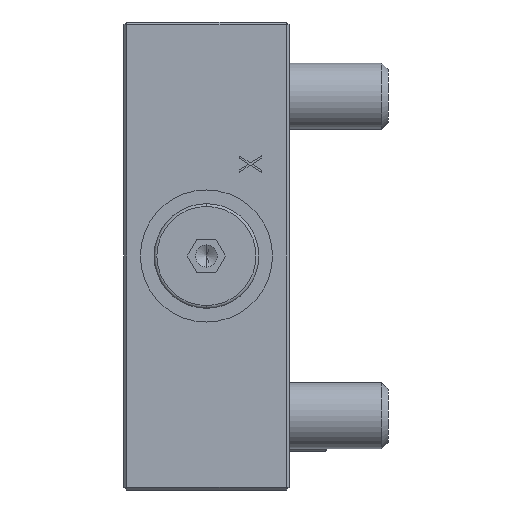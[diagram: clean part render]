
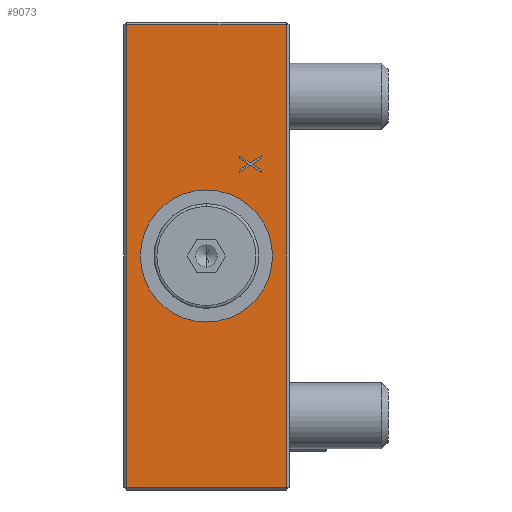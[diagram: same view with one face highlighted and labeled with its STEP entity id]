
A CAD part, left-side view. The second image highlights one B-rep face of the part: STEP entity #9073.
In plain terms, the highlighted planar face has unit normal (-1, 0, 0).
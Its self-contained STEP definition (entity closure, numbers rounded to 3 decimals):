
#234 = VERTEX_POINT ( 'NONE', #9271 ) ;
#242 = ORIENTED_EDGE ( 'NONE', *, *, #1746, .T. ) ;
#330 = DIRECTION ( 'NONE',  ( 0., 1., 0. ) ) ;
#387 = DIRECTION ( 'NONE',  ( -1., 0., 0. ) ) ;
#494 = CARTESIAN_POINT ( 'NONE',  ( 0., -7.636, 16.692 ) ) ;
#545 = CARTESIAN_POINT ( 'NONE',  ( 0., 0., -12. ) ) ;
#643 = DIRECTION ( 'NONE',  ( 0., -0.842, -0.539 ) ) ;
#997 = EDGE_CURVE ( 'NONE', #12543, #10412, #11096, .T. ) ;
#1161 = DIRECTION ( 'NONE',  ( -1., 0., 0. ) ) ;
#1243 = VERTEX_POINT ( 'NONE', #7927 ) ;
#1526 = CARTESIAN_POINT ( 'NONE',  ( 0., -15., -42. ) ) ;
#1552 = VERTEX_POINT ( 'NONE', #14322 ) ;
#1574 = CARTESIAN_POINT ( 'NONE',  ( 0., -10., 15.179 ) ) ;
#1746 = EDGE_CURVE ( 'NONE', #13929, #6340, #3422, .T. ) ;
#1770 = EDGE_CURVE ( 'NONE', #6340, #9050, #3118, .T. ) ;
#1774 = EDGE_CURVE ( 'NONE', #9050, #1552, #3182, .T. ) ;
#1796 = EDGE_CURVE ( 'NONE', #1552, #13929, #3088, .T. ) ;
#1799 = EDGE_CURVE ( 'NONE', #10412, #12543, #3134, .T. ) ;
#1815 = EDGE_CURVE ( 'NONE', #234, #4545, #3057, .T. ) ;
#1817 = EDGE_CURVE ( 'NONE', #4545, #13897, #3020, .T. ) ;
#1829 = CARTESIAN_POINT ( 'NONE',  ( 0., -10., 17.791 ) ) ;
#1858 = EDGE_CURVE ( 'NONE', #13897, #7285, #2712, .T. ) ;
#1860 = EDGE_CURVE ( 'NONE', #7285, #3218, #2756, .T. ) ;
#1878 = EDGE_CURVE ( 'NONE', #3218, #6812, #2721, .T. ) ;
#1879 = EDGE_CURVE ( 'NONE', #6812, #10116, #2669, .T. ) ;
#1903 = EDGE_CURVE ( 'NONE', #10116, #10938, #2650, .T. ) ;
#1907 = EDGE_CURVE ( 'NONE', #10938, #1243, #2623, .T. ) ;
#1927 = EDGE_CURVE ( 'NONE', #1243, #12857, #2329, .T. ) ;
#1930 = EDGE_CURVE ( 'NONE', #12857, #5638, #2311, .T. ) ;
#1941 = ORIENTED_EDGE ( 'NONE', *, *, #997, .F. ) ;
#1958 = EDGE_CURVE ( 'NONE', #5638, #9239, #2253, .T. ) ;
#1961 = EDGE_CURVE ( 'NONE', #9239, #234, #2290, .T. ) ;
#2193 = VECTOR ( 'NONE', #9882, 1000. ) ;
#2219 = VECTOR ( 'NONE', #643, 1000. ) ;
#2253 = LINE ( 'NONE', #9837, #2219 ) ;
#2267 = VECTOR ( 'NONE', #3000, 1000. ) ;
#2290 = LINE ( 'NONE', #8768, #2193 ) ;
#2311 = LINE ( 'NONE', #1829, #2267 ) ;
#2329 = LINE ( 'NONE', #7602, #2342 ) ;
#2342 = VECTOR ( 'NONE', #14183, 1000. ) ;
#2346 = ORIENTED_EDGE ( 'NONE', *, *, #1815, .T. ) ;
#2518 = VECTOR ( 'NONE', #7556, 1000. ) ;
#2564 = VECTOR ( 'NONE', #14083, 1000. ) ;
#2591 = VECTOR ( 'NONE', #10795, 1000. ) ;
#2623 = LINE ( 'NONE', #13013, #2518 ) ;
#2635 = VECTOR ( 'NONE', #7470, 1000. ) ;
#2650 = LINE ( 'NONE', #8627, #2564 ) ;
#2667 = VECTOR ( 'NONE', #7510, 1000. ) ;
#2669 = LINE ( 'NONE', #9732, #2591 ) ;
#2684 = VECTOR ( 'NONE', #10745, 1000. ) ;
#2696 = DIRECTION ( 'NONE',  ( 0., 0., -1. ) ) ;
#2712 = LINE ( 'NONE', #2845, #2684 ) ;
#2718 = FACE_BOUND ( 'NONE', #4366, .T. ) ;
#2721 = LINE ( 'NONE', #494, #2635 ) ;
#2740 = PLANE ( 'NONE',  #10552 ) ;
#2756 = LINE ( 'NONE', #6406, #2667 ) ;
#2787 = DIRECTION ( 'NONE',  ( -1., 0., 0. ) ) ;
#2845 = CARTESIAN_POINT ( 'NONE',  ( 0., -6., 15.231 ) ) ;
#2954 = VECTOR ( 'NONE', #11783, 1000. ) ;
#2987 = VECTOR ( 'NONE', #13951, 1000. ) ;
#3000 = DIRECTION ( 'NONE',  ( 0., 0.842, -0.539 ) ) ;
#3013 = ORIENTED_EDGE ( 'NONE', *, *, #1930, .T. ) ;
#3020 = LINE ( 'NONE', #9592, #2954 ) ;
#3057 = LINE ( 'NONE', #1574, #2987 ) ;
#3071 = VECTOR ( 'NONE', #2696, 1000. ) ;
#3088 = LINE ( 'NONE', #1526, #3434 ) ;
#3104 = VECTOR ( 'NONE', #330, 1000. ) ;
#3118 = LINE ( 'NONE', #5033, #3104 ) ;
#3134 = CIRCLE ( 'NONE', #11275, 12. ) ;
#3177 = CARTESIAN_POINT ( 'NONE',  ( 0., -7.96, 16.486 ) ) ;
#3182 = LINE ( 'NONE', #8433, #3071 ) ;
#3218 = VERTEX_POINT ( 'NONE', #11855 ) ;
#3417 = VECTOR ( 'NONE', #8289, 1000. ) ;
#3422 = LINE ( 'NONE', #9356, #3417 ) ;
#3434 = VECTOR ( 'NONE', #10607, 1000. ) ;
#3677 = AXIS2_PLACEMENT_3D ( 'NONE', #8079, #1161, #9197 ) ;
#3940 = ORIENTED_EDGE ( 'NONE', *, *, #1858, .T. ) ;
#4010 = ORIENTED_EDGE ( 'NONE', *, *, #1878, .T. ) ;
#4300 = CARTESIAN_POINT ( 'NONE',  ( 0., -6., 17.74 ) ) ;
#4366 = EDGE_LOOP ( 'NONE', ( #2346, #10834, #3940, #5872, #4010, #11615, #5446, #6866, #11939, #3013, #9769, #12941 ) ) ;
#4545 = VERTEX_POINT ( 'NONE', #3177 ) ;
#4744 = EDGE_LOOP ( 'NONE', ( #6420, #1941 ) ) ;
#5033 = CARTESIAN_POINT ( 'NONE',  ( 0., 15., 42. ) ) ;
#5446 = ORIENTED_EDGE ( 'NONE', *, *, #1903, .T. ) ;
#5638 = VERTEX_POINT ( 'NONE', #11212 ) ;
#5861 = CARTESIAN_POINT ( 'NONE',  ( 0., -10., 17.791 ) ) ;
#5872 = ORIENTED_EDGE ( 'NONE', *, *, #1860, .T. ) ;
#5888 = FACE_BOUND ( 'NONE', #4744, .T. ) ;
#6125 = ORIENTED_EDGE ( 'NONE', *, *, #1796, .T. ) ;
#6198 = CARTESIAN_POINT ( 'NONE',  ( 0., 14.5, 42. ) ) ;
#6340 = VERTEX_POINT ( 'NONE', #13616 ) ;
#6406 = CARTESIAN_POINT ( 'NONE',  ( 0., -6., 15.645 ) ) ;
#6420 = ORIENTED_EDGE ( 'NONE', *, *, #1799, .F. ) ;
#6812 = VERTEX_POINT ( 'NONE', #4300 ) ;
#6866 = ORIENTED_EDGE ( 'NONE', *, *, #1907, .T. ) ;
#7285 = VERTEX_POINT ( 'NONE', #8503 ) ;
#7380 = CARTESIAN_POINT ( 'NONE',  ( 0., 0., 0. ) ) ;
#7470 = DIRECTION ( 'NONE',  ( 0., 0.842, 0.539 ) ) ;
#7510 = DIRECTION ( 'NONE',  ( 0., -0.842, 0.539 ) ) ;
#7556 = DIRECTION ( 'NONE',  ( 0., -0.842, 0.539 ) ) ;
#7602 = CARTESIAN_POINT ( 'NONE',  ( 0., -10., 18.205 ) ) ;
#7927 = CARTESIAN_POINT ( 'NONE',  ( 0., -10., 18.205 ) ) ;
#8079 = CARTESIAN_POINT ( 'NONE',  ( 0., 0., 0. ) ) ;
#8289 = DIRECTION ( 'NONE',  ( 0., 0., 1. ) ) ;
#8433 = CARTESIAN_POINT ( 'NONE',  ( 0., 14.5, -42.5 ) ) ;
#8483 = DIRECTION ( 'NONE',  ( 0., 0., 1. ) ) ;
#8503 = CARTESIAN_POINT ( 'NONE',  ( 0., -6., 15.645 ) ) ;
#8627 = CARTESIAN_POINT ( 'NONE',  ( 0., -6., 18.154 ) ) ;
#8768 = CARTESIAN_POINT ( 'NONE',  ( 0., -10., 15.594 ) ) ;
#9050 = VERTEX_POINT ( 'NONE', #6198 ) ;
#9073 = ADVANCED_FACE ( 'NONE', ( #11380, #5888, #2718 ), #2740, .T. ) ;
#9197 = DIRECTION ( 'NONE',  ( 0., 0., 1. ) ) ;
#9239 = VERTEX_POINT ( 'NONE', #12056 ) ;
#9271 = CARTESIAN_POINT ( 'NONE',  ( 0., -10., 15.179 ) ) ;
#9356 = CARTESIAN_POINT ( 'NONE',  ( 0., -14.5, 42.5 ) ) ;
#9592 = CARTESIAN_POINT ( 'NONE',  ( 0., -7.96, 16.486 ) ) ;
#9627 = CARTESIAN_POINT ( 'NONE',  ( 0., 15., -42.5 ) ) ;
#9732 = CARTESIAN_POINT ( 'NONE',  ( 0., -6., 17.74 ) ) ;
#9769 = ORIENTED_EDGE ( 'NONE', *, *, #1958, .T. ) ;
#9793 = ORIENTED_EDGE ( 'NONE', *, *, #1774, .T. ) ;
#9837 = CARTESIAN_POINT ( 'NONE',  ( 0., -8.284, 16.692 ) ) ;
#9882 = DIRECTION ( 'NONE',  ( 0., 0., -1. ) ) ;
#10116 = VERTEX_POINT ( 'NONE', #12162 ) ;
#10412 = VERTEX_POINT ( 'NONE', #10714 ) ;
#10552 = AXIS2_PLACEMENT_3D ( 'NONE', #9627, #2787, #10698 ) ;
#10607 = DIRECTION ( 'NONE',  ( 0., -1., 0. ) ) ;
#10698 = DIRECTION ( 'NONE',  ( 0., 0., 1. ) ) ;
#10702 = CARTESIAN_POINT ( 'NONE',  ( 0., -7.96, 16.9 ) ) ;
#10714 = CARTESIAN_POINT ( 'NONE',  ( 0., 0., 12. ) ) ;
#10745 = DIRECTION ( 'NONE',  ( 0., 0., 1. ) ) ;
#10795 = DIRECTION ( 'NONE',  ( 0., 0., 1. ) ) ;
#10834 = ORIENTED_EDGE ( 'NONE', *, *, #1817, .T. ) ;
#10938 = VERTEX_POINT ( 'NONE', #10702 ) ;
#11096 = CIRCLE ( 'NONE', #3677, 12. ) ;
#11156 = CARTESIAN_POINT ( 'NONE',  ( 0., -6., 15.231 ) ) ;
#11212 = CARTESIAN_POINT ( 'NONE',  ( 0., -8.284, 16.692 ) ) ;
#11275 = AXIS2_PLACEMENT_3D ( 'NONE', #7380, #387, #8483 ) ;
#11380 = FACE_OUTER_BOUND ( 'NONE', #13795, .T. ) ;
#11586 = ORIENTED_EDGE ( 'NONE', *, *, #1770, .T. ) ;
#11615 = ORIENTED_EDGE ( 'NONE', *, *, #1879, .T. ) ;
#11783 = DIRECTION ( 'NONE',  ( 0., 0.842, -0.539 ) ) ;
#11855 = CARTESIAN_POINT ( 'NONE',  ( 0., -7.636, 16.692 ) ) ;
#11939 = ORIENTED_EDGE ( 'NONE', *, *, #1927, .T. ) ;
#12056 = CARTESIAN_POINT ( 'NONE',  ( 0., -10., 15.594 ) ) ;
#12162 = CARTESIAN_POINT ( 'NONE',  ( 0., -6., 18.154 ) ) ;
#12543 = VERTEX_POINT ( 'NONE', #545 ) ;
#12857 = VERTEX_POINT ( 'NONE', #5861 ) ;
#12941 = ORIENTED_EDGE ( 'NONE', *, *, #1961, .T. ) ;
#13013 = CARTESIAN_POINT ( 'NONE',  ( 0., -7.96, 16.9 ) ) ;
#13616 = CARTESIAN_POINT ( 'NONE',  ( 0., -14.5, 42. ) ) ;
#13795 = EDGE_LOOP ( 'NONE', ( #242, #11586, #9793, #6125 ) ) ;
#13897 = VERTEX_POINT ( 'NONE', #11156 ) ;
#13929 = VERTEX_POINT ( 'NONE', #14481 ) ;
#13951 = DIRECTION ( 'NONE',  ( 0., 0.842, 0.539 ) ) ;
#14083 = DIRECTION ( 'NONE',  ( 0., -0.842, -0.539 ) ) ;
#14183 = DIRECTION ( 'NONE',  ( 0., 0., -1. ) ) ;
#14322 = CARTESIAN_POINT ( 'NONE',  ( 0., 14.5, -42. ) ) ;
#14481 = CARTESIAN_POINT ( 'NONE',  ( 0., -14.5, -42. ) ) ;
